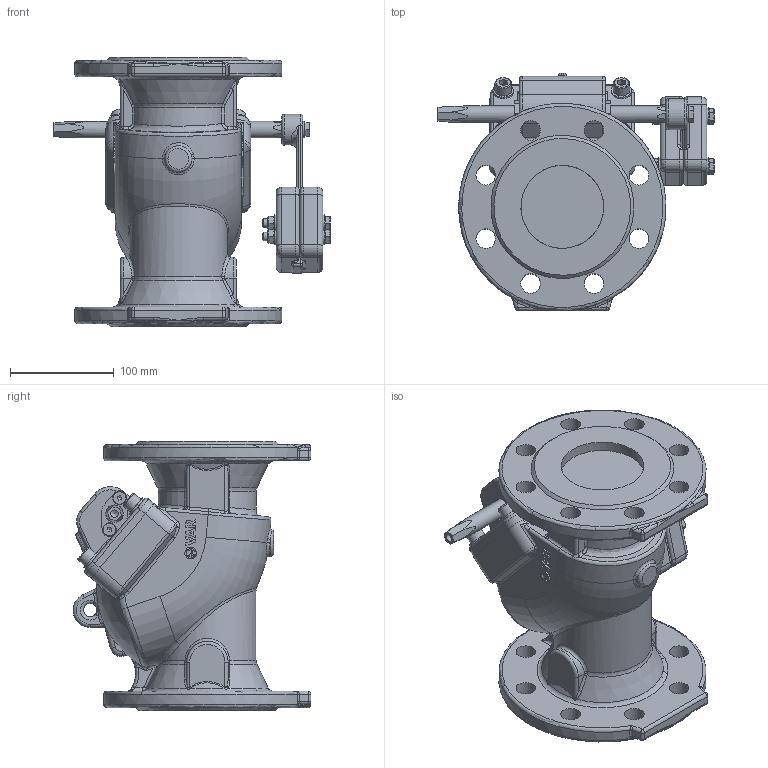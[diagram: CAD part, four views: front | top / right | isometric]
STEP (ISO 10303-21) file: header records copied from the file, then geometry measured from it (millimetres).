
FILE_DESCRIPTION(('STEP AP203'), '1');
FILE_NAME('VAR LIMU-STOP Îáðàòíûé êëàïàí DN 80 PN 16 c ðû÷àãîì è ïðîòèâîâåñîì', '2026-06-28T08:29:22', (' '), (' '), 'C3D Converter', 'C3D Toolkit', '');
FILE_SCHEMA(('CONFIG_CONTROL_DESIGN'));
Length unit declared in the file: millimetre
Products named in the file (1): Admi0C102497dl94
Bounding box: 266.4 x 229.48 x 260 mm (x, y, z)
Volume: 4405744.5 mm3; surface area: 309676.8 mm2
Topology: 1 solids, 15 shells, 1103 faces, 2834 edges, 1780 vertices
Faces by surface type: plane 371, cylinder 245, bspline 171, extrusion 152, torus 77, cone 62, sphere 25
Full cylindrical faces by diameter (mm): 6 x4, 6.5 x4, 7.2 x2, 8 x9, 8.4 x5, 10 x4, 10.5 x4, 11.345 x1, 11.4 x3, 12 x4, 13 x1, 16 x11, 17 x2, 19 x16, 20 x4, 30 x1, 80 x2
Entity records: 70665 total; most frequent: CARTESIAN_POINT 38736, ORIENTED_EDGE 5316, DIRECTION 4012, EDGE_CURVE 2658, VERTEX_POINT 1752, AXIS2_PLACEMENT_3D 1452, EDGE_LOOP 1336, FACE_BOUND 1270
